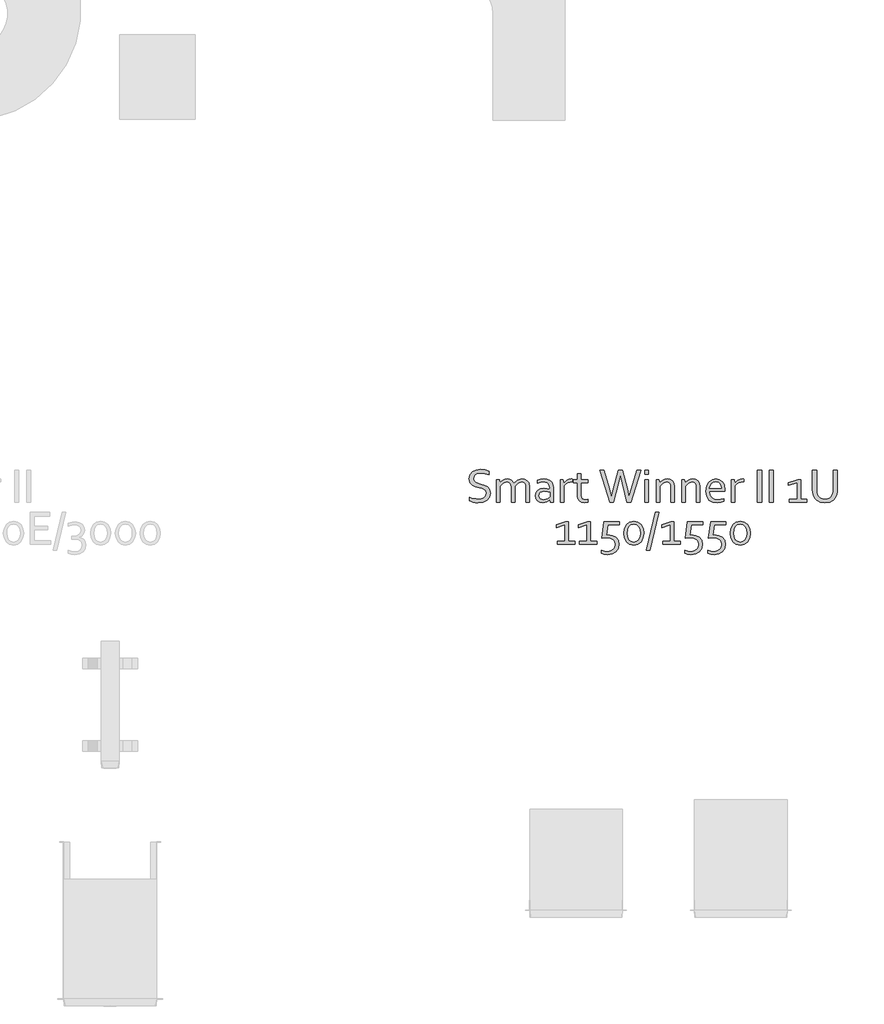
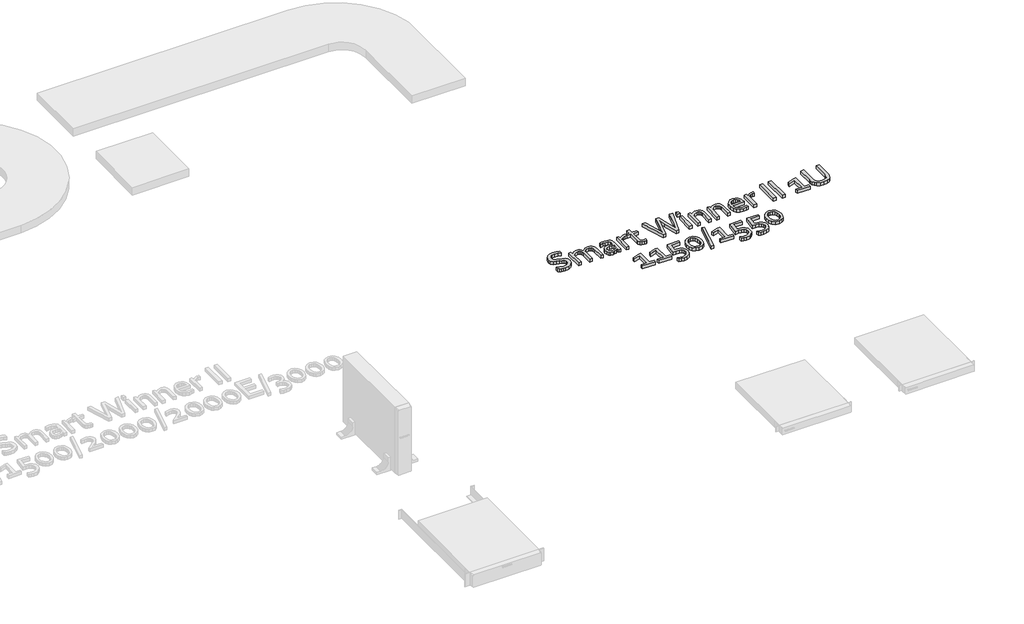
# One storey, part 13 of 14: 1 proxy.
"""IFC4 building model written with IfcOpenShell, lengths in millimetres."""

from ifc_helpers import new_model, si_unit, origin, origin_with_axes, place, context, project, spatial, polyline, outline, extrude, element, save

model = new_model("IFC4")

# Units and contexts
model_context = context("Model", 3, world=origin())
ifc_project = project(units=[si_unit("LENGTHUNIT", "METRE", prefix="MILLI")], contexts=[model_context])

# Site, building, storey
site = spatial("IfcSite", under=ifc_project)
building = spatial("IfcBuilding", under=site)
storey = spatial("IfcBuildingStorey", under=building, Name="Этаж 01", Elevation=0.0)

# Proxy
placement = place(None, origin())
element("IfcBuildingElementProxy", 1, Name="150 мм Corbel", ObjectType="150 мм Corbel", at=placement, inside=storey, context=model_context, shape_type="SweptSolid", body=[
    extrude(outline(polyline([(11757.4910444, 936.8855088), (11760.2254427, 925.8822898), (11767.5536304, 918.7072285), (11778.2287216, 914.0696889), (11790.91633, 910.6790349), (11808.3946043, 905.9321193), (11823.6853599, 898.757058), (11834.5354526, 886.8350812), (11838.6917381, 867.9786701), (11834.2073248, 847.722247), (11821.8259691, 833.7002522), (11803.2758106, 825.5626827), (11779.9349861, 822.9157851), (11768.0130093, 823.6376662), (11756.3535347, 825.5845579), (11746.3128239, 828.3845818), (11739.2471385, 831.4908583), (11739.2471385, 848.1160004), (11748.3253411, 844.681596), (11758.7598052, 842.0346984), (11769.6317731, 840.3284338), (11779.9349861, 839.7159286), (11794.9194892, 841.050315), (11807.4102209, 845.5128531), (11815.9415438, 854.0223008), (11819.0915707, 867.5411663), (11816.2915468, 878.7193868), (11808.832108, 886.0038241), (11798.0695161, 890.6851141), (11785.2287814, 894.0976432), (11767.8161326, 898.6476821), (11752.6566281, 905.7133675), (11741.9377865, 917.3509669), (11737.8908769, 935.5292472), (11742.1346632, 955.3481665), (11753.6191363, 969.0857839), (11770.1786528, 977.1139775), (11790.0413225, 979.7171247), (11812.3977635, 977.4202301), (11831.3854257, 971.4483041), (11831.3854257, 954.5169094), (11812.1571364, 960.5107106), (11790.91633, 962.9169812), (11776.1068284, 961.0794655), (11765.6942395, 955.8512958), (11759.5254368, 947.6262256), (11757.4910444, 936.8855088)])), origin_with_axes(), (0.0, 0.0, 1.0), 20.0),
    extrude(outline(polyline([(11953.492719, 825.715809), (11936.6925755, 825.715809), (11936.6925755, 894.7976492), (11935.1613124, 906.7196261), (11930.6987742, 914.8134452), (11923.7205896, 919.4509848), (11914.6423871, 920.9166224), (11897.426615, 915.6884527), (11883.4921209, 901.3164549), (11883.4921209, 825.715809), (11866.6919774, 825.715809), (11866.6919774, 932.116718), (11880.1233421, 932.116718), (11883.4483705, 917.3290917), (11890.1421777, 924.1979004), (11897.7328676, 929.8198234), (11906.9423213, 933.5823556), (11917.9236651, 934.916742), (11928.7737578, 933.489386), (11937.6113333, 929.2073182), (11949.6864365, 913.6540603), (11966.3772041, 929.2729438), (11987.6617609, 934.916742), (11999.605613, 933.3417285), (12011.199462, 927.5666792), (12019.9932872, 915.9728301), (12023.4933171, 896.9414175), (12023.4933171, 825.715809), (12006.6931735, 825.715809), (12006.6931735, 894.7976492), (12005.1619104, 906.7196261), (12000.7212475, 914.8134452), (11993.7649381, 919.4509848), (11984.6867355, 920.9166224), (11967.4490882, 915.6884527), (11953.492719, 901.3164549), (11953.492719, 825.715809)])), origin_with_axes(), (0.0, 0.0, 1.0), 20.0),
    extrude(outline(polyline([(12119.2191349, 837.4846595), (12113.4222104, 832.1689891), (12106.006522, 827.4439487), (12096.8189435, 824.1407955), (12086.1876027, 822.9157851), (12072.1656079, 825.1689293), (12061.2061393, 831.7971109), (12054.0529532, 842.450327), (12051.4935563, 856.6910736), (12054.3373306, 870.6911932), (12062.2998986, 881.1694078), (12074.6156288, 887.7975894), (12090.5188897, 890.1163592), (12105.765895, 888.6288465), (12118.2566267, 885.2600677), (12118.6941304, 892.8726328), (12118.1253756, 901.207079), (12116.2003591, 907.5727583), (12106.9252799, 917.132215), (12089.6438822, 920.9166224), (12074.4406273, 919.4291096), (12060.2873814, 915.3165745), (12060.2873814, 929.0104415), (12066.6093104, 931.3948369), (12074.287501, 933.2979781), (12082.7969487, 934.5011134), (12091.7876506, 934.916742), (12106.4221506, 933.489386), (12118.0378748, 929.2073182), (12126.7004488, 922.5736678), (12132.4754982, 914.091564), (12134.794268, 906.1946216), (12135.494274, 896.7226656), (12135.494274, 825.715809), (12121.100401, 825.715809), (12119.2191349, 837.4846595)]), holes=[polyline([(12118.6941304, 872.1349556), (12107.0784062, 874.7381028), (12092.312655, 876.1162396), (12074.6593792, 871.3474488), (12069.8851197, 865.2989597), (12068.2936998, 856.6910736), (12069.8905885, 847.9409989), (12074.2656259, 841.750321), (12080.8500571, 838.1190399), (12088.9876266, 836.9159047), (12099.5752171, 838.5565437), (12108.2815415, 842.4722021), (12114.7565968, 847.022241), (12118.6941304, 850.5660213), (12118.6941304, 872.1349556)])]), origin_with_axes(), (0.0, 0.0, 1.0), 20.0),
    extrude(outline(polyline([(12226.8888048, 920.9166224), (12213.4574401, 919.7572375), (12202.3010948, 916.2353324), (12192.8947644, 910.3946575), (12185.8947046, 902.1914624), (12185.8947046, 825.715809), (12169.0945611, 825.715809), (12169.0945611, 932.116718), (12182.0884221, 932.116718), (12185.3259497, 915.1853234), (12191.9760065, 922.9291396), (12200.4417039, 929.2073182), (12210.7667921, 933.4073541), (12222.5575178, 934.916742), (12224.8325373, 934.8729916), (12226.8888048, 934.7417405), (12226.8888048, 920.9166224)])), origin_with_axes(), (0.0, 0.0, 1.0), 20.0),
    extrude(outline(polyline([(12300.4769336, 825.3220556), (12293.6518752, 823.7470422), (12282.6705314, 822.9157851), (12268.1891577, 825.015803), (12258.1484469, 831.0096042), (12252.2421465, 840.4378098), (12250.2952548, 852.75354), (12250.2952548, 918.1165984), (12229.7763295, 918.1165984), (12229.7763295, 932.116718), (12250.2952548, 932.116718), (12250.2952548, 960.1169573), (12267.0953984, 960.1169573), (12267.0953984, 932.116718), (12298.9019201, 932.116718), (12298.9019201, 918.1165984), (12267.0953984, 918.1165984), (12267.0953984, 854.5035549), (12268.1454073, 847.4816199), (12271.4923109, 841.9034473), (12277.3767362, 838.2284159), (12286.0393102, 836.9159047), (12293.3674978, 837.4846595), (12300.4769336, 838.9284219), (12300.4769336, 825.3220556)])), origin_with_axes(), (0.0, 0.0, 1.0), 20.0),
    extrude(outline(polyline([(12453.2532389, 951.9356374), (12444.5906648, 915.5353264), (12421.1404645, 825.715809), (12402.4153045, 825.715809), (12356.6961639, 976.9171008), (12376.2963313, 976.9171008), (12400.9715422, 888.1913428), (12410.9903778, 849.7785146), (12416.2622978, 870.2318143), (12420.8779622, 887.9725909), (12443.4969055, 976.9171008), (12463.097073, 976.9171008), (12485.1472614, 887.9725909), (12494.3348398, 849.7785146), (12505.0536814, 888.1913428), (12530.2976471, 976.9171008), (12549.8978146, 976.9171008), (12503.478668, 825.715809), (12484.753508, 825.715809), (12461.7845617, 915.5353264), (12453.2532389, 951.9356374)])), origin_with_axes(), (0.0, 0.0, 1.0), 20.0),
    extrude(outline(polyline([(12569.497982, 957.3169334), (12569.497982, 976.9171008), (12586.2981256, 976.9171008), (12586.2981256, 957.3169334), (12569.497982, 957.3169334)])), origin_with_axes(), (0.0, 0.0, 1.0), 20.0),
    extrude(outline(polyline([(12569.497982, 825.715809), (12569.497982, 932.116718), (12586.2981256, 932.116718), (12586.2981256, 825.715809), (12569.497982, 825.715809)])), origin_with_axes(), (0.0, 0.0, 1.0), 20.0),
    extrude(outline(polyline([(12639.4110794, 917.3290917), (12646.1267617, 924.1979004), (12653.9799538, 929.8198234), (12663.4956601, 933.5823556), (12674.7613814, 934.916742), (12688.3677476, 932.9042248), (12699.3709666, 926.4072943), (12706.7647798, 914.7040693), (12709.4991782, 896.9414175), (12709.4991782, 825.715809), (12692.6990346, 825.715809), (12692.6990346, 894.7976492), (12691.3537106, 906.7579076), (12687.3177387, 914.8134452), (12680.7114322, 919.3908281), (12671.6551048, 920.9166224), (12654.1112049, 915.6884527), (12639.4985801, 901.3164549), (12639.4985801, 825.715809), (12622.6984366, 825.715809), (12622.6984366, 932.116718), (12636.0423006, 932.116718), (12639.4110794, 917.3290917)])), origin_with_axes(), (0.0, 0.0, 1.0), 20.0),
    extrude(outline(polyline([(12759.812108, 917.3290917), (12766.5277904, 924.1979004), (12774.3809825, 929.8198234), (12783.8966888, 933.5823556), (12795.1624101, 934.916742), (12808.7687763, 932.9042248), (12819.7719953, 926.4072943), (12827.1658085, 914.7040693), (12829.9002069, 896.9414175), (12829.9002069, 825.715809), (12813.1000633, 825.715809), (12813.1000633, 894.7976492), (12811.7547393, 906.7579076), (12807.7187673, 914.8134452), (12801.1124609, 919.3908281), (12792.0561335, 920.9166224), (12774.5122336, 915.6884527), (12759.8996088, 901.3164549), (12759.8996088, 825.715809), (12743.0994652, 825.715809), (12743.0994652, 932.116718), (12756.4433293, 932.116718), (12759.812108, 917.3290917)])), origin_with_axes(), (0.0, 0.0, 1.0), 20.0),
    extrude(outline(polyline([(12913.2446689, 836.9159047), (12929.0166787, 838.3815422), (12943.213675, 842.5159525), (12943.213675, 828.6908344), (12929.0823043, 824.4689233), (12911.0133999, 822.9157851), (12889.5538415, 825.8251849), (12872.5349461, 835.2315153), (12861.7286038, 852.2066603), (12857.9004461, 877.4725012), (12861.8817301, 902.7164669), (12872.4693206, 920.5666194), (12887.6944506, 931.3292113), (12905.6758543, 934.916742), (12922.1697452, 931.9854669), (12935.4698588, 922.7541381), (12944.3730599, 906.5008742), (12947.6324627, 882.6350453), (12947.6324627, 880.381901), (12947.5012116, 876.1162396), (12873.7818318, 876.1162396), (12876.8662331, 857.9160841), (12885.2881801, 845.7972306), (12897.800787, 839.0377978), (12913.2446689, 836.9159047)]), holes=[polyline([(12904.9320979, 920.9166224), (12893.4257496, 918.4884766), (12884.1506704, 911.8821702), (12877.7193654, 902.1039616), (12874.7005896, 890.1163592), (12930.7010681, 890.1163592), (12929.0166787, 902.2133376), (12924.0510113, 911.9915461), (12916.0009425, 918.532227), (12904.9320979, 920.9166224)])]), origin_with_axes(), (0.0, 0.0, 1.0), 20.0),
    extrude(outline(polyline([(13036.0957186, 920.9166224), (13022.6643538, 919.7572375), (13011.5080085, 916.2353324), (13002.1016781, 910.3946575), (12995.1016183, 902.1914624), (12995.1016183, 825.715809), (12978.3014748, 825.715809), (12978.3014748, 932.116718), (12991.2953358, 932.116718), (12994.5328635, 915.1853234), (13001.1829203, 922.9291396), (13009.6486176, 929.2073182), (13019.9737058, 933.4073541), (13031.7644316, 934.916742), (13034.039451, 934.8729916), (13036.0957186, 934.7417405), (13036.0957186, 920.9166224)])), origin_with_axes(), (0.0, 0.0, 1.0), 20.0),
    extrude(outline(polyline([(13101.5025274, 825.715809), (13101.5025274, 976.9171008), (13121.1026948, 976.9171008), (13121.1026948, 825.715809), (13101.5025274, 825.715809)])), origin_with_axes(), (0.0, 0.0, 1.0), 20.0),
    extrude(outline(polyline([(13157.5030058, 825.715809), (13157.5030058, 976.9171008), (13177.1031733, 976.9171008), (13177.1031733, 825.715809), (13157.5030058, 825.715809)])), origin_with_axes(), (0.0, 0.0, 1.0), 20.0),
    extrude(outline(polyline([(13289.1041302, 839.7159286), (13289.1041302, 918.1165984), (13248.6350345, 904.1164788), (13248.6350345, 918.1165984), (13291.3791497, 932.116718), (13305.9042738, 932.116718), (13305.9042738, 839.7159286), (13335.2607746, 839.7159286), (13335.2607746, 825.715809), (13253.3163245, 825.715809), (13253.3163245, 839.7159286), (13289.1041302, 839.7159286)])), origin_with_axes(), (0.0, 0.0, 1.0), 20.0),
    extrude(outline(polyline([(13420.7052546, 839.7159286), (13434.8366253, 841.640945), (13445.5992173, 847.0441162), (13453.2555327, 855.4223128), (13457.9368227, 866.3161559), (13459.4680858, 874.5849765), (13459.9055895, 883.422552), (13459.9055895, 976.9171008), (13479.505757, 976.9171008), (13479.505757, 883.5975535), (13478.9370021, 872.5068338), (13477.1432368, 861.766117), (13470.7119318, 846.3003598), (13459.5555865, 833.9846296), (13443.0616956, 825.8470601), (13420.4865027, 822.9157851), (13398.7425669, 825.6283082), (13382.6861798, 833.1314973), (13371.7048359, 844.5503449), (13365.0547791, 858.9660931), (13362.6266334, 871.0411962), (13361.9047522, 883.5975535), (13361.9047522, 976.9171008), (13381.5049197, 976.9171008), (13381.5049197, 883.422552), (13382.2049257, 873.0099631), (13384.4361947, 863.2536297), (13389.5495197, 853.4754212), (13397.1894287, 846.0159824), (13407.5199857, 841.290942), (13420.7052546, 839.7159286)])), origin_with_axes(), (0.0, 0.0, 1.0), 20.0),
    extrude(outline(polyline([(12191.4947524, 639.315498), (12191.4947524, 717.7161678), (12151.0256567, 703.7160482), (12151.0256567, 717.7161678), (12193.7697719, 731.7162874), (12208.294896, 731.7162874), (12208.294896, 639.315498), (12237.6513968, 639.315498), (12237.6513968, 625.3153784), (12155.7069467, 625.3153784), (12155.7069467, 639.315498), (12191.4947524, 639.315498)])), origin_with_axes(), (0.0, 0.0, 1.0), 20.0),
    extrude(outline(polyline([(12295.0956376, 639.315498), (12295.0956376, 717.7161678), (12254.6265418, 703.7160482), (12254.6265418, 717.7161678), (12297.370657, 731.7162874), (12311.8957811, 731.7162874), (12311.8957811, 639.315498), (12341.2522819, 639.315498), (12341.2522819, 625.3153784), (12259.3078318, 625.3153784), (12259.3078318, 639.315498), (12295.0956376, 639.315498)])), origin_with_axes(), (0.0, 0.0, 1.0), 20.0),
    extrude(outline(polyline([(12446.2969294, 625.4466295), (12442.8187747, 606.3933417), (12432.6249376, 591.2775876), (12415.693543, 581.3025023), (12392.4839697, 577.7149717), (12376.2307058, 579.2024844), (12362.3399621, 583.7525233), (12362.3399621, 597.3151391), (12378.0244711, 592.8744762), (12391.6964629, 591.7150913), (12408.2997298, 594.3401137), (12420.0685803, 601.4932998), (12427.1342657, 612.0371399), (12429.4967859, 624.6591228), (12427.0030146, 638.5936168), (12419.1935729, 648.3718254), (12405.5434562, 654.1906251), (12385.4401595, 656.1156415), (12365.6649905, 654.9781318), (12376.2963313, 731.7162874), (12447.3469384, 731.7162874), (12447.3469384, 717.7161678), (12393.0964749, 717.7161678), (12386.8401714, 669.8970093), (12393.0964749, 670.1157611), (12415.8466693, 667.0969853), (12432.5374369, 658.3687858), (12442.7968995, 644.3686662), (12446.2969294, 625.4466295)])), origin_with_axes(), (0.0, 0.0, 1.0), 20.0),
    extrude(outline(polyline([(12563.8979342, 678.3845818), (12560.6822817, 656.290643), (12551.3415769, 638.5498664), (12536.4445746, 626.7810159), (12516.3850282, 622.5153544), (12495.9317285, 626.7810159), (12480.9691007, 638.5498664), (12471.8033973, 656.290643), (12468.6971208, 678.3845818), (12471.9127733, 700.6316469), (12481.2534781, 718.438049), (12496.2161059, 730.2506499), (12516.2975275, 734.5163114), (12536.6633265, 730.2506499), (12551.6259543, 718.438049), (12560.7916576, 700.6316469), (12563.8979342, 678.3845818)]), holes=[polyline([(12547.0977906, 678.3845818), (12544.910272, 696.0378576), (12538.7195941, 709.2723457), (12529.0507615, 717.6067919), (12516.2975275, 720.5161917), (12503.5442935, 717.6067919), (12493.8317105, 709.2723457), (12487.6410327, 696.0378576), (12485.4972643, 678.3845818), (12487.684783, 660.8844323), (12493.8754609, 647.6936946), (12503.6099191, 639.4248739), (12516.4287786, 636.5154741), (12529.1601374, 639.4248739), (12538.82897, 647.6936946), (12544.9540223, 660.8844323), (12547.0977906, 678.3845818)])]), origin_with_axes(), (0.0, 0.0, 1.0), 20.0),
    extrude(outline(polyline([(12577.1105471, 597.3151391), (12619.7234111, 776.5166702), (12636.3048028, 776.5166702), (12593.6919387, 597.3151391), (12577.1105471, 597.3151391)])), origin_with_axes(), (0.0, 0.0, 1.0), 20.0),
    extrude(outline(polyline([(12689.8990107, 639.315498), (12689.8990107, 717.7161678), (12649.429915, 703.7160482), (12649.429915, 717.7161678), (12692.1740302, 731.7162874), (12706.6991543, 731.7162874), (12706.6991543, 639.315498), (12736.0556551, 639.315498), (12736.0556551, 625.3153784), (12654.1112049, 625.3153784), (12654.1112049, 639.315498), (12689.8990107, 639.315498)])), origin_with_axes(), (0.0, 0.0, 1.0), 20.0),
    extrude(outline(polyline([(12841.1003026, 625.4466295), (12837.6221478, 606.3933417), (12827.4283107, 591.2775876), (12810.4969161, 581.3025023), (12787.2873428, 577.7149717), (12771.0340789, 579.2024844), (12757.1433352, 583.7525233), (12757.1433352, 597.3151391), (12772.8278442, 592.8744762), (12786.4998361, 591.7150913), (12803.1031029, 594.3401137), (12814.8719535, 601.4932998), (12821.9376388, 612.0371399), (12824.300159, 624.6591228), (12821.8063877, 638.5936168), (12813.996946, 648.3718254), (12800.3468294, 654.1906251), (12780.2435326, 656.1156415), (12760.4683636, 654.9781318), (12771.0997045, 731.7162874), (12842.1503115, 731.7162874), (12842.1503115, 717.7161678), (12787.899848, 717.7161678), (12781.6435446, 669.8970093), (12787.899848, 670.1157611), (12810.6500424, 667.0969853), (12827.34081, 658.3687858), (12837.6002726, 644.3686662), (12841.1003026, 625.4466295)])), origin_with_axes(), (0.0, 0.0, 1.0), 20.0),
    extrude(outline(polyline([(12950.3012355, 625.4466295), (12946.8230808, 606.3933417), (12936.6292437, 591.2775876), (12919.6978491, 581.3025023), (12896.4882758, 577.7149717), (12880.2350119, 579.2024844), (12866.3442682, 583.7525233), (12866.3442682, 597.3151391), (12882.0287772, 592.8744762), (12895.700769, 591.7150913), (12912.3040359, 594.3401137), (12924.0728865, 601.4932998), (12931.1385718, 612.0371399), (12933.501092, 624.6591228), (12931.0073207, 638.5936168), (12923.197879, 648.3718254), (12909.5477624, 654.1906251), (12889.4444656, 656.1156415), (12869.6692966, 654.9781318), (12880.3006375, 731.7162874), (12951.3512445, 731.7162874), (12951.3512445, 717.7161678), (12897.100781, 717.7161678), (12890.8444776, 669.8970093), (12897.100781, 670.1157611), (12919.8509754, 667.0969853), (12936.541743, 658.3687858), (12946.8012056, 644.3686662), (12950.3012355, 625.4466295)])), origin_with_axes(), (0.0, 0.0, 1.0), 20.0),
    extrude(outline(polyline([(13067.9022403, 678.3845818), (13064.6865878, 656.290643), (13055.345883, 638.5498664), (13040.4488808, 626.7810159), (13020.3893344, 622.5153544), (12999.9360346, 626.7810159), (12984.9734068, 638.5498664), (12975.8077035, 656.290643), (12972.7014269, 678.3845818), (12975.9170794, 700.6316469), (12985.2577842, 718.438049), (13000.220412, 730.2506499), (13020.3018336, 734.5163114), (13040.6676326, 730.2506499), (13055.6302605, 718.438049), (13064.7959638, 700.6316469), (13067.9022403, 678.3845818)]), holes=[polyline([(13051.1020968, 678.3845818), (13048.9145781, 696.0378576), (13042.7239002, 709.2723457), (13033.0550676, 717.6067919), (13020.3018336, 720.5161917), (13007.5485997, 717.6067919), (12997.8360167, 709.2723457), (12991.6453388, 696.0378576), (12989.5015705, 678.3845818), (12991.6890892, 660.8844323), (12997.879767, 647.6936946), (13007.6142252, 639.4248739), (13020.4330847, 636.5154741), (13033.1644435, 639.4248739), (13042.8332761, 647.6936946), (13048.9583285, 660.8844323), (13051.1020968, 678.3845818)])]), origin_with_axes(), (0.0, 0.0, 1.0), 20.0),
])

save(model, "model.ifc")
